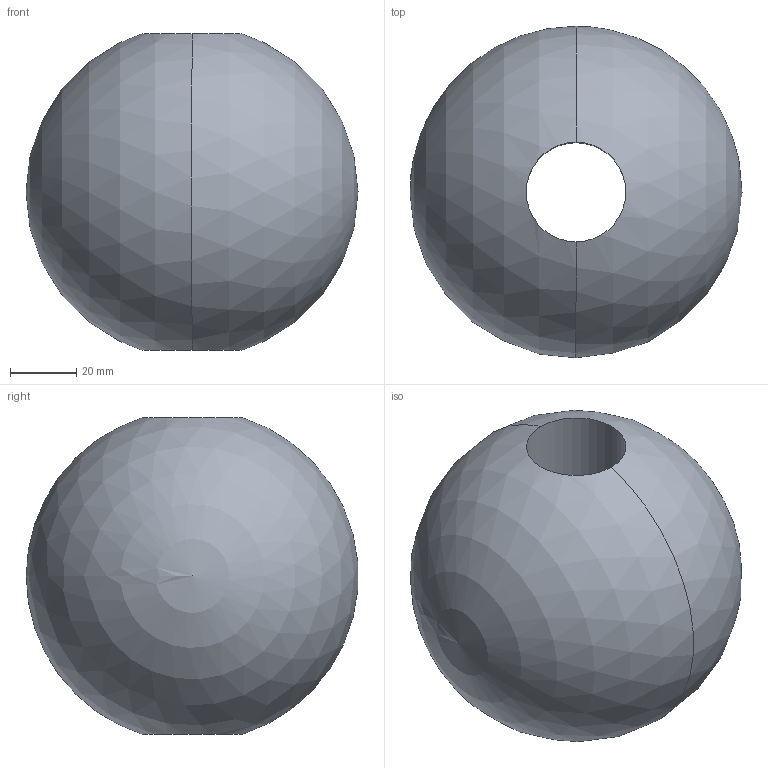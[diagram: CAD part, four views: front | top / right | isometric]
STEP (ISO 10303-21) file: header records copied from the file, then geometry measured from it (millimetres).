
FILE_DESCRIPTION (( 'STEP AP214' ), '1' );
FILE_NAME ('BOLA 10.STEP', '2026-02-11T16:49:26', ( '' ), ( '' ), 'SwSTEP 2.0', 'SolidWorks 2023', '' );
FILE_SCHEMA (( 'AUTOMOTIVE_DESIGN' ));
Length unit declared in the file: millimetre
Products named in the file (1): BOLA 10
Bounding box: 100 x 99.82 x 95.39 mm (x, y, z)
Volume: 454528.1 mm3; surface area: 38959.5 mm2
Topology: 1 solids, 1 shells, 4 faces, 17 edges, 11 vertices
Faces by surface type: cylinder 2, sphere 2
Entity records: 173 total; most frequent: DIRECTION 32, CARTESIAN_POINT 25, ORIENTED_EDGE 24, AXIS2_PLACEMENT_3D 15, EDGE_CURVE 12, CIRCLE 10, VERTEX_POINT 8, ADVANCED_FACE 4
